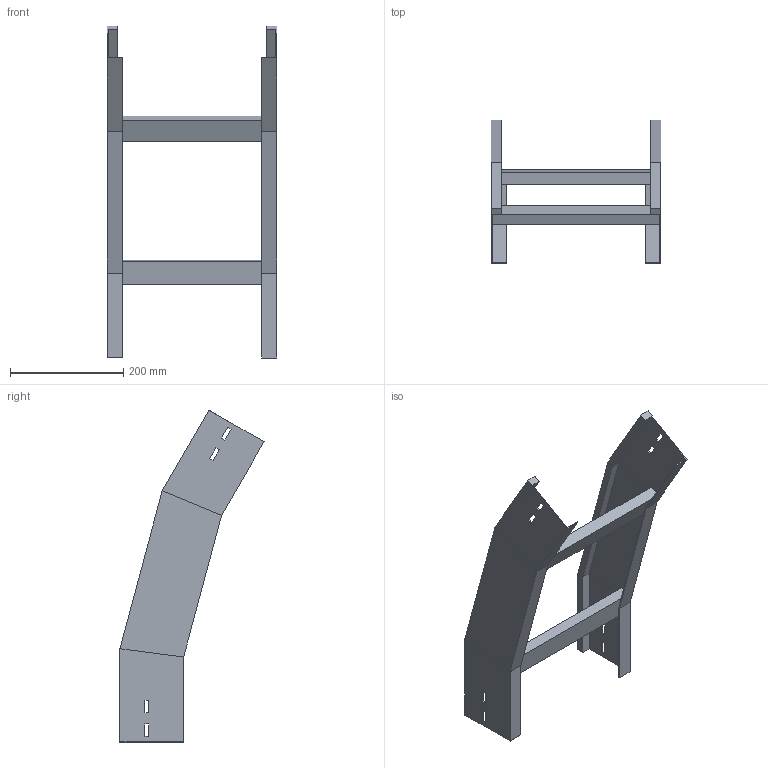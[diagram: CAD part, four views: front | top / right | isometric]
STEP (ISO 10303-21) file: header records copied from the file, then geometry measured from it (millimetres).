
FILE_DESCRIPTION (( 'STEP AP214' ), '1' );
FILE_NAME ('35B5J300.step', '2025-02-21T14:47:19', ( '' ), ( '' ), 'SwSTEP 2.0', 'SolidWorks 2023', '' );
FILE_SCHEMA (( 'AUTOMOTIVE_DESIGN' ));
Length unit declared in the file: millimetre
Products named in the file (3): LONGH.DISCESA_30°_H112.5_R500; 35B5J300; TRAVERSINO_300
Assembly tree (5 placements, depth 2):
  35B5J300
    LONGH.DISCESA_30°_H112.5_R500  x2
    TRAVERSINO_300  x3
Bounding box: 300 x 254.53 x 586.33 mm (x, y, z)
Volume: 1273840.7 mm3; surface area: 477546.8 mm2
Topology: 5 solids, 5 shells, 102 faces, 244 edges, 152 vertices
Faces by surface type: plane 102
Entity records: 1480 total; most frequent: CARTESIAN_POINT 244, ORIENTED_EDGE 232, DIRECTION 228, EDGE_CURVE 116, LINE 116, VECTOR 116, VERTEX_POINT 72, AXIS2_PLACEMENT_3D 56
